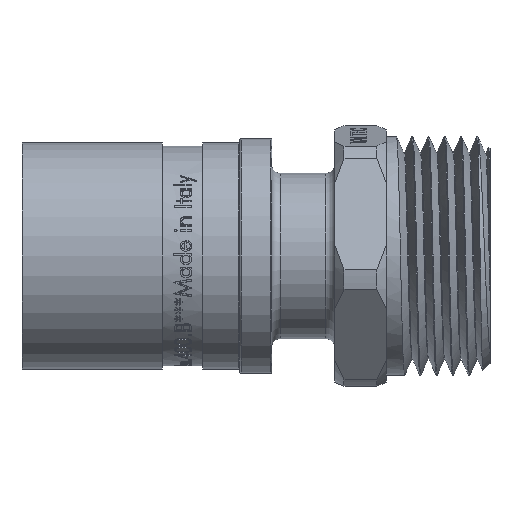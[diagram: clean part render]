
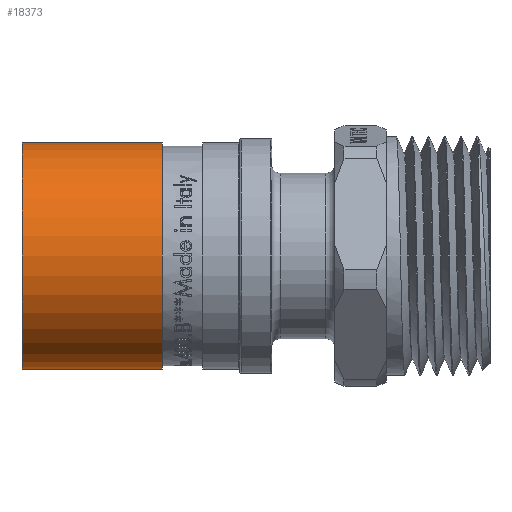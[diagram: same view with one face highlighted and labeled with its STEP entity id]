
A CAD part, front view. The second image highlights one B-rep face of the part: STEP entity #18373.
In plain terms, the highlighted cylindrical face has radius 12.5 mm (diameter 25 mm), a full revolution.
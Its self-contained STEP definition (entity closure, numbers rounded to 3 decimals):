
#1106=CYLINDRICAL_SURFACE('',#19232,12.5);
#2065=FACE_OUTER_BOUND('',#3158,.T.);
#3158=EDGE_LOOP('',(#17051,#17052,#17053,#17054,#17055,#17056));
#4356=CIRCLE('',#19230,12.5);
#4357=CIRCLE('',#19231,12.5);
#4358=CIRCLE('',#19233,12.5);
#4359=CIRCLE('',#19234,12.5);
#5916=LINE('',#39854,#7344);
#7344=VECTOR('',#22421,12.5);
#9076=VERTEX_POINT('',#39845);
#9077=VERTEX_POINT('',#39846);
#9078=VERTEX_POINT('',#39850);
#9079=VERTEX_POINT('',#39851);
#11768=EDGE_CURVE('',#9076,#9077,#4356,.T.);
#11769=EDGE_CURVE('',#9077,#9076,#4357,.T.);
#11770=EDGE_CURVE('',#9078,#9079,#4358,.T.);
#11771=EDGE_CURVE('',#9079,#9078,#4359,.T.);
#11772=EDGE_CURVE('',#9079,#9077,#5916,.T.);
#17051=ORIENTED_EDGE('',*,*,#11770,.F.);
#17052=ORIENTED_EDGE('',*,*,#11771,.F.);
#17053=ORIENTED_EDGE('',*,*,#11772,.T.);
#17054=ORIENTED_EDGE('',*,*,#11769,.T.);
#17055=ORIENTED_EDGE('',*,*,#11768,.T.);
#17056=ORIENTED_EDGE('',*,*,#11772,.F.);
#18373=ADVANCED_FACE('',(#2065),#1106,.T.);
#19230=AXIS2_PLACEMENT_3D('',#39847,#22411,#22412);
#19231=AXIS2_PLACEMENT_3D('',#39848,#22413,#22414);
#19232=AXIS2_PLACEMENT_3D('',#39849,#22415,#22416);
#19233=AXIS2_PLACEMENT_3D('',#39852,#22417,#22418);
#19234=AXIS2_PLACEMENT_3D('',#39853,#22419,#22420);
#22411=DIRECTION('center_axis',(1.,0.,0.));
#22412=DIRECTION('ref_axis',(0.,0.,-1.));
#22413=DIRECTION('center_axis',(1.,0.,0.));
#22414=DIRECTION('ref_axis',(0.,0.,-1.));
#22415=DIRECTION('center_axis',(1.,0.,0.));
#22416=DIRECTION('ref_axis',(0.,1.,0.));
#22417=DIRECTION('center_axis',(1.,0.,0.));
#22418=DIRECTION('ref_axis',(0.,0.,-1.));
#22419=DIRECTION('center_axis',(1.,0.,0.));
#22420=DIRECTION('ref_axis',(0.,0.,-1.));
#22421=DIRECTION('',(-1.,0.,0.));
#39845=CARTESIAN_POINT('',(-25.061,12.5,0.));
#39846=CARTESIAN_POINT('',(-25.061,-12.5,0.));
#39847=CARTESIAN_POINT('Origin',(-25.061,0.,0.));
#39848=CARTESIAN_POINT('Origin',(-25.061,0.,0.));
#39849=CARTESIAN_POINT('Origin',(-17.311,0.,0.));
#39850=CARTESIAN_POINT('',(-9.561,12.5,0.));
#39851=CARTESIAN_POINT('',(-9.561,-12.5,0.));
#39852=CARTESIAN_POINT('Origin',(-9.561,0.,0.));
#39853=CARTESIAN_POINT('Origin',(-9.561,0.,0.));
#39854=CARTESIAN_POINT('',(-17.311,-12.5,0.));
